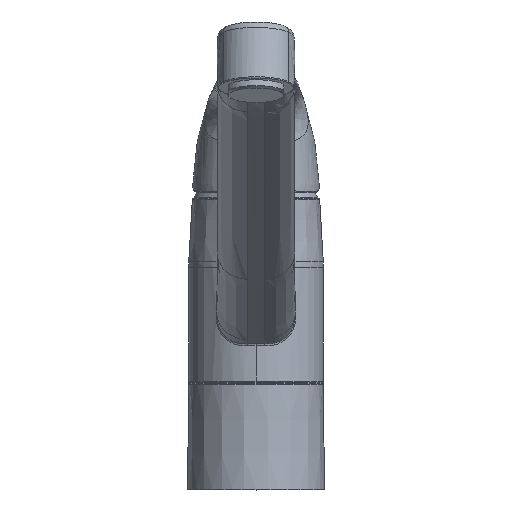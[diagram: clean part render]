
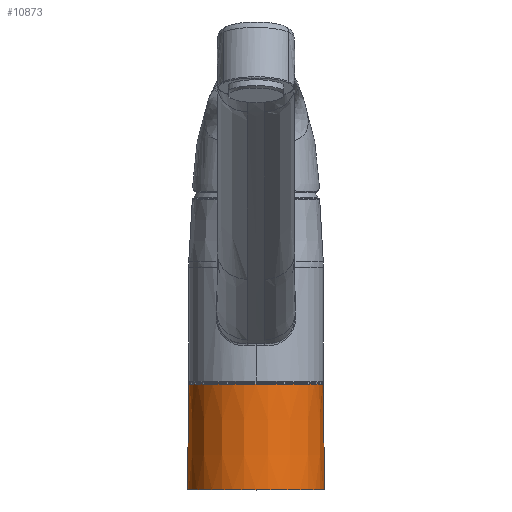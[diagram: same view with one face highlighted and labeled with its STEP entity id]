
A CAD part, top view. The second image highlights one B-rep face of the part: STEP entity #10873.
In plain terms, the highlighted conical face has half-angle 0.5 degrees and reference radius 26.5 mm.
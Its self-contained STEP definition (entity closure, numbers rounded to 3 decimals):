
#87 = LINE ( 'NONE', #10988, #15374 ) ;
#345 = DIRECTION ( 'NONE',  ( 0., -1., 0. ) ) ;
#721 = VERTEX_POINT ( 'NONE', #8248 ) ;
#789 = VERTEX_POINT ( 'NONE', #8282 ) ;
#1298 = DIRECTION ( 'NONE',  ( -0.009, -1., 0. ) ) ;
#1378 = DIRECTION ( 'NONE',  ( 0., -1., 0. ) ) ;
#2620 = EDGE_CURVE ( 'NONE', #789, #3619, #5752, .T. ) ;
#2823 = DIRECTION ( 'NONE',  ( -1., 0., 0. ) ) ;
#2981 = VECTOR ( 'NONE', #10784, 1000. ) ;
#3496 = ORIENTED_EDGE ( 'NONE', *, *, #12061, .F. ) ;
#3619 = VERTEX_POINT ( 'NONE', #12462 ) ;
#3758 = CONICAL_SURFACE ( 'NONE', #15316, 26.5, 0.009 ) ;
#3846 = EDGE_LOOP ( 'NONE', ( #8664, #9683, #3496, #12757 ) ) ;
#4920 = DIRECTION ( 'NONE',  ( 0., -1., 0. ) ) ;
#5752 = CIRCLE ( 'NONE', #8139, 26.503 ) ;
#6764 = CARTESIAN_POINT ( 'NONE',  ( -15.174, 313.727, 487.281 ) ) ;
#6952 = VERTEX_POINT ( 'NONE', #6764 ) ;
#7621 = CARTESIAN_POINT ( 'NONE',  ( -42.039, 355.131, 487.281 ) ) ;
#7818 = CARTESIAN_POINT ( 'NONE',  ( -42.039, 313.727, 487.281 ) ) ;
#8139 = AXIS2_PLACEMENT_3D ( 'NONE', #7621, #1378, #11245 ) ;
#8248 = CARTESIAN_POINT ( 'NONE',  ( -68.904, 313.727, 487.281 ) ) ;
#8282 = CARTESIAN_POINT ( 'NONE',  ( -15.536, 355.131, 487.281 ) ) ;
#8437 = DIRECTION ( 'NONE',  ( 1., 0., 0. ) ) ;
#8484 = CARTESIAN_POINT ( 'NONE',  ( -42.039, 355.527, 487.281 ) ) ;
#8664 = ORIENTED_EDGE ( 'NONE', *, *, #2620, .T. ) ;
#9683 = ORIENTED_EDGE ( 'NONE', *, *, #14752, .T. ) ;
#10784 = DIRECTION ( 'NONE',  ( 0.009, -1., 0. ) ) ;
#10873 = ADVANCED_FACE ( 'NONE', ( #13820 ), #3758, .T. ) ;
#10988 = CARTESIAN_POINT ( 'NONE',  ( -68.539, 355.527, 487.281 ) ) ;
#11245 = DIRECTION ( 'NONE',  ( 1., 0., 0. ) ) ;
#12061 = EDGE_CURVE ( 'NONE', #6952, #721, #15960, .T. ) ;
#12462 = CARTESIAN_POINT ( 'NONE',  ( -68.543, 355.131, 487.281 ) ) ;
#12757 = ORIENTED_EDGE ( 'NONE', *, *, #14539, .F. ) ;
#13245 = LINE ( 'NONE', #15806, #2981 ) ;
#13410 = AXIS2_PLACEMENT_3D ( 'NONE', #7818, #345, #2823 ) ;
#13820 = FACE_OUTER_BOUND ( 'NONE', #3846, .T. ) ;
#14539 = EDGE_CURVE ( 'NONE', #789, #6952, #13245, .T. ) ;
#14752 = EDGE_CURVE ( 'NONE', #3619, #721, #87, .T. ) ;
#15316 = AXIS2_PLACEMENT_3D ( 'NONE', #8484, #4920, #8437 ) ;
#15374 = VECTOR ( 'NONE', #1298, 1000. ) ;
#15806 = CARTESIAN_POINT ( 'NONE',  ( -15.539, 355.527, 487.281 ) ) ;
#15960 = CIRCLE ( 'NONE', #13410, 26.865 ) ;
